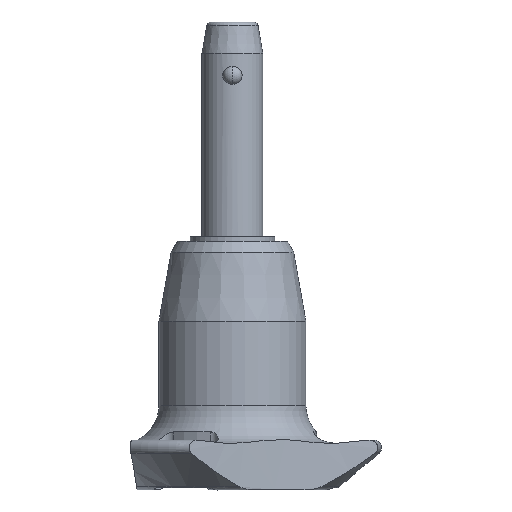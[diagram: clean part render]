
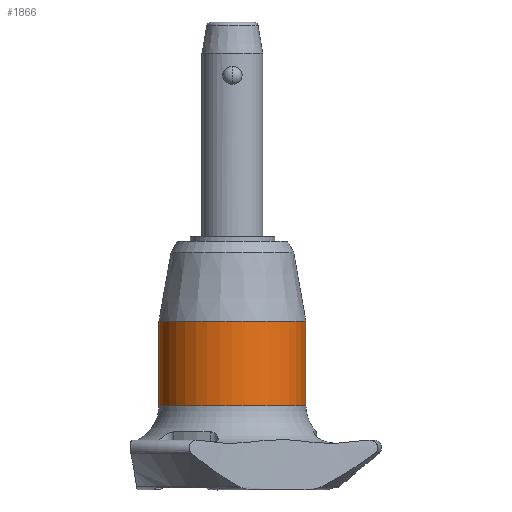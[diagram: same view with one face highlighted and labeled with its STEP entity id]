
A CAD part, front view. The second image highlights one B-rep face of the part: STEP entity #1866.
In plain terms, the highlighted cylindrical face has radius 9.65 mm (diameter 19.3 mm), a partial arc.
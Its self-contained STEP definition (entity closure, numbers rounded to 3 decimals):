
#59 = AXIS2_PLACEMENT_3D ( 'NONE', #1363, #730, #295 ) ;
#62 = EDGE_CURVE ( 'NONE', #1430, #2226, #1252, .T. ) ;
#156 = DIRECTION ( 'NONE',  ( -1., 0., 0. ) ) ;
#191 = CARTESIAN_POINT ( 'NONE',  ( -9.65, 0., -42.2 ) ) ;
#295 = DIRECTION ( 'NONE',  ( -1., 0., 0. ) ) ;
#357 = ORIENTED_EDGE ( 'NONE', *, *, #62, .F. ) ;
#370 = CARTESIAN_POINT ( 'NONE',  ( 9.65, 0., -42.2 ) ) ;
#401 = CARTESIAN_POINT ( 'NONE',  ( 0., 0., -42.2 ) ) ;
#567 = EDGE_CURVE ( 'NONE', #2226, #2017, #1214, .T. ) ;
#568 = CARTESIAN_POINT ( 'NONE',  ( 0., 0., -31.1 ) ) ;
#577 = DIRECTION ( 'NONE',  ( -1., 0., 0. ) ) ;
#622 = ORIENTED_EDGE ( 'NONE', *, *, #1302, .T. ) ;
#688 = VERTEX_POINT ( 'NONE', #1914 ) ;
#730 = DIRECTION ( 'NONE',  ( 0., 0., -1. ) ) ;
#796 = DIRECTION ( 'NONE',  ( 0., 0., -1. ) ) ;
#833 = CYLINDRICAL_SURFACE ( 'NONE', #1576, 9.65 ) ;
#835 = CARTESIAN_POINT ( 'NONE',  ( 9.65, 0., -31.1 ) ) ;
#997 = EDGE_LOOP ( 'NONE', ( #357, #622, #1197, #2702 ) ) ;
#1085 = VECTOR ( 'NONE', #1888, 1000. ) ;
#1197 = ORIENTED_EDGE ( 'NONE', *, *, #2530, .T. ) ;
#1214 = CIRCLE ( 'NONE', #59, 9.65 ) ;
#1252 = LINE ( 'NONE', #1701, #1085 ) ;
#1302 = EDGE_CURVE ( 'NONE', #1430, #688, #1592, .T. ) ;
#1316 = VECTOR ( 'NONE', #796, 1000. ) ;
#1363 = CARTESIAN_POINT ( 'NONE',  ( 0., 0., -42.2 ) ) ;
#1430 = VERTEX_POINT ( 'NONE', #835 ) ;
#1576 = AXIS2_PLACEMENT_3D ( 'NONE', #401, #1889, #577 ) ;
#1592 = CIRCLE ( 'NONE', #2664, 9.65 ) ;
#1701 = CARTESIAN_POINT ( 'NONE',  ( 9.65, 0., -42.2 ) ) ;
#1860 = FACE_OUTER_BOUND ( 'NONE', #997, .T. ) ;
#1866 = ADVANCED_FACE ( 'NONE', ( #1860 ), #833, .T. ) ;
#1888 = DIRECTION ( 'NONE',  ( 0., 0., -1. ) ) ;
#1889 = DIRECTION ( 'NONE',  ( 0., 0., -1. ) ) ;
#1914 = CARTESIAN_POINT ( 'NONE',  ( -9.65, 0., -31.1 ) ) ;
#2017 = VERTEX_POINT ( 'NONE', #2167 ) ;
#2167 = CARTESIAN_POINT ( 'NONE',  ( -9.65, 0., -42.2 ) ) ;
#2226 = VERTEX_POINT ( 'NONE', #370 ) ;
#2303 = LINE ( 'NONE', #191, #1316 ) ;
#2489 = DIRECTION ( 'NONE',  ( 0., 0., -1. ) ) ;
#2530 = EDGE_CURVE ( 'NONE', #688, #2017, #2303, .T. ) ;
#2664 = AXIS2_PLACEMENT_3D ( 'NONE', #568, #2489, #156 ) ;
#2702 = ORIENTED_EDGE ( 'NONE', *, *, #567, .F. ) ;
